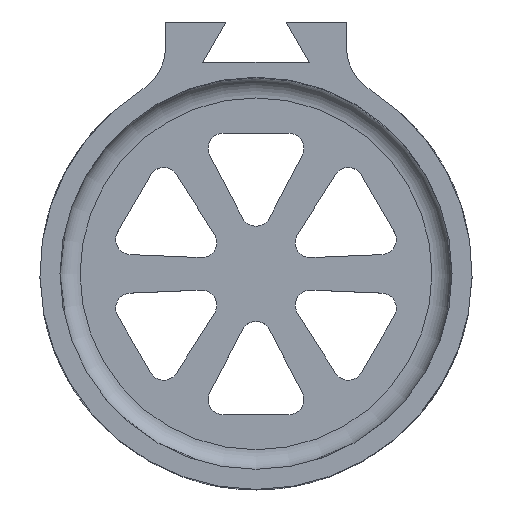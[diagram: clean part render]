
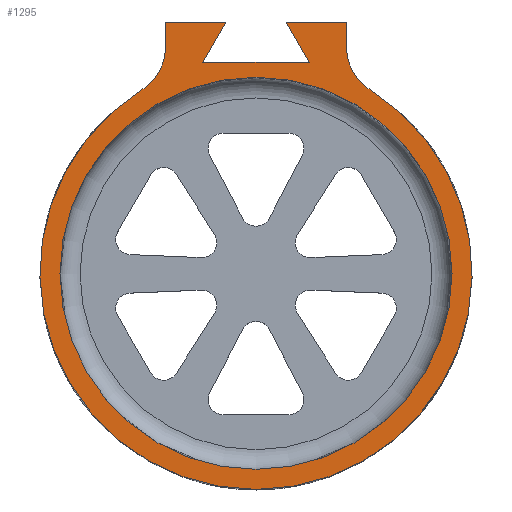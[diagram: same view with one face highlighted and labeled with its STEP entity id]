
A CAD part, top view. The second image highlights one B-rep face of the part: STEP entity #1295.
In plain terms, the highlighted planar face has unit normal (0, 0, 1).
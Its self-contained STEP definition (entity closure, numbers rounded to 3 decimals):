
#39=PLANE('',#1416);
#60=FACE_BOUND('',#433,.T.);
#89=LINE('',#4130,#186);
#95=LINE('',#4145,#192);
#152=LINE('',#4297,#249);
#155=LINE('',#4303,#252);
#159=LINE('',#4310,#256);
#160=LINE('',#4312,#257);
#161=LINE('',#4313,#258);
#186=VECTOR('',#1528,10.);
#192=VECTOR('',#1542,10.);
#249=VECTOR('',#1709,10.);
#252=VECTOR('',#1714,10.);
#256=VECTOR('',#1720,10.);
#257=VECTOR('',#1723,10.);
#258=VECTOR('',#1724,10.);
#350=FACE_OUTER_BOUND('',#432,.T.);
#432=EDGE_LOOP('',(#1158,#1159,#1160,#1161,#1162,#1163,#1164,#1165,#1166,
#1167));
#433=EDGE_LOOP('',(#1168));
#480=CIRCLE('',#1316,39.);
#483=CIRCLE('',#1320,43.);
#512=CIRCLE('',#1352,10.);
#515=CIRCLE('',#1357,10.);
#540=VERTEX_POINT('',#1995);
#547=VERTEX_POINT('',#2314);
#549=VERTEX_POINT('',#2318);
#607=VERTEX_POINT('',#4123);
#609=VERTEX_POINT('',#4129);
#612=VERTEX_POINT('',#4137);
#614=VERTEX_POINT('',#4143);
#653=VERTEX_POINT('',#4294);
#654=VERTEX_POINT('',#4296);
#656=VERTEX_POINT('',#4302);
#658=VERTEX_POINT('',#4308);
#668=EDGE_CURVE('',#540,#540,#480,.T.);
#678=EDGE_CURVE('',#547,#549,#483,.T.);
#749=EDGE_CURVE('',#547,#607,#512,.T.);
#752=EDGE_CURVE('',#609,#607,#89,.T.);
#757=EDGE_CURVE('',#612,#549,#515,.T.);
#760=EDGE_CURVE('',#614,#612,#95,.T.);
#835=EDGE_CURVE('',#654,#653,#152,.T.);
#838=EDGE_CURVE('',#656,#654,#155,.T.);
#842=EDGE_CURVE('',#653,#658,#159,.T.);
#843=EDGE_CURVE('',#658,#609,#160,.T.);
#844=EDGE_CURVE('',#614,#656,#161,.T.);
#1158=ORIENTED_EDGE('',*,*,#838,.T.);
#1159=ORIENTED_EDGE('',*,*,#835,.T.);
#1160=ORIENTED_EDGE('',*,*,#842,.T.);
#1161=ORIENTED_EDGE('',*,*,#843,.T.);
#1162=ORIENTED_EDGE('',*,*,#752,.T.);
#1163=ORIENTED_EDGE('',*,*,#749,.F.);
#1164=ORIENTED_EDGE('',*,*,#678,.T.);
#1165=ORIENTED_EDGE('',*,*,#757,.F.);
#1166=ORIENTED_EDGE('',*,*,#760,.F.);
#1167=ORIENTED_EDGE('',*,*,#844,.T.);
#1168=ORIENTED_EDGE('',*,*,#668,.T.);
#1295=ADVANCED_FACE('',(#350,#60),#39,.T.);
#1316=AXIS2_PLACEMENT_3D('',#1997,#1429,#1430);
#1320=AXIS2_PLACEMENT_3D('',#2320,#1439,#1440);
#1352=AXIS2_PLACEMENT_3D('',#4124,#1521,#1522);
#1357=AXIS2_PLACEMENT_3D('',#4139,#1536,#1537);
#1416=AXIS2_PLACEMENT_3D('',#4311,#1721,#1722);
#1429=DIRECTION('center_axis',(0.,0.,-1.));
#1430=DIRECTION('ref_axis',(1.,0.,0.));
#1439=DIRECTION('center_axis',(0.,0.,1.));
#1440=DIRECTION('ref_axis',(1.,0.,0.));
#1521=DIRECTION('center_axis',(0.,0.,1.));
#1522=DIRECTION('ref_axis',(0.874,-0.486,0.));
#1528=DIRECTION('',(0.,-1.,0.));
#1536=DIRECTION('center_axis',(0.,0.,1.));
#1537=DIRECTION('ref_axis',(-0.874,-0.486,0.));
#1542=DIRECTION('',(0.,-1.,0.));
#1709=DIRECTION('',(-1.,0.,0.));
#1714=DIRECTION('',(0.5,-0.866,0.));
#1720=DIRECTION('',(0.5,0.866,0.));
#1721=DIRECTION('center_axis',(0.,0.,1.));
#1722=DIRECTION('ref_axis',(1.,0.,0.));
#1723=DIRECTION('',(-1.,0.,0.));
#1724=DIRECTION('',(-1.,0.,0.));
#1995=CARTESIAN_POINT('',(-39.,0.,68.));
#1997=CARTESIAN_POINT('Origin',(0.,0.,68.));
#2314=CARTESIAN_POINT('',(-22.717,36.509,68.));
#2318=CARTESIAN_POINT('',(22.717,36.509,68.));
#2320=CARTESIAN_POINT('Origin',(0.,0.,68.));
#4123=CARTESIAN_POINT('',(-18.,45.,68.));
#4124=CARTESIAN_POINT('Origin',(-28.,45.,68.));
#4129=CARTESIAN_POINT('',(-18.,50.,68.));
#4130=CARTESIAN_POINT('',(-18.,50.,68.));
#4137=CARTESIAN_POINT('',(18.,45.,68.));
#4139=CARTESIAN_POINT('Origin',(28.,45.,68.));
#4143=CARTESIAN_POINT('',(18.,50.,68.));
#4145=CARTESIAN_POINT('',(18.,50.,68.));
#4294=CARTESIAN_POINT('',(-10.619,42.,68.));
#4296=CARTESIAN_POINT('',(10.619,42.,68.));
#4297=CARTESIAN_POINT('',(5.309,42.,68.));
#4302=CARTESIAN_POINT('',(6.,50.,68.));
#4303=CARTESIAN_POINT('',(16.075,32.549,68.));
#4308=CARTESIAN_POINT('',(-6.,50.,68.));
#4310=CARTESIAN_POINT('',(-18.385,28.549,68.));
#4311=CARTESIAN_POINT('Origin',(0.,0.,68.));
#4312=CARTESIAN_POINT('',(18.,50.,68.));
#4313=CARTESIAN_POINT('',(18.,50.,68.));
